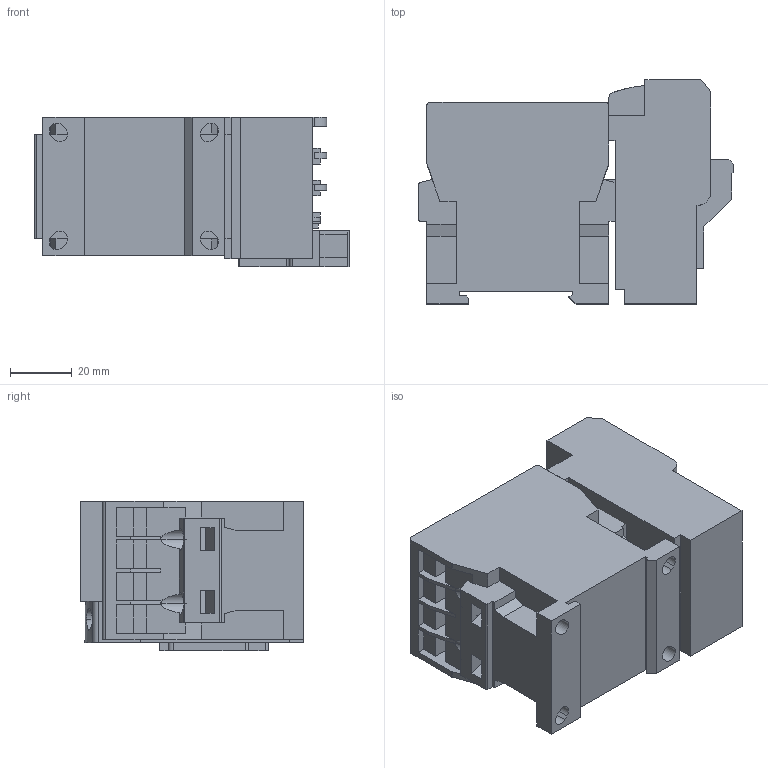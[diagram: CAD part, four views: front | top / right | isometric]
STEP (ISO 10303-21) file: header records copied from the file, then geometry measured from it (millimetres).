
FILE_DESCRIPTION (( 'STEP AP203' ), '1' );
FILE_NAME ('K3-10N + U12_K3.STEP', '2014-03-10T08:26:37', ( '' ), ( '' ), 'SwSTEP 2.0', 'SolidWorks 2014', '' );
FILE_SCHEMA (( 'CONFIG_CONTROL_DESIGN' ));
Length unit declared in the file: millimetre
Products named in the file (3): U12; K3-10N + U12_K3; K3-07_22N
Assembly tree (2 placements, depth 2):
  K3-10N + U12_K3
    K3-07_22N
    U12
Bounding box: 102.1 x 72.6 x 48.6 mm (x, y, z)
Volume: 233423.3 mm3; surface area: 44150 mm2
Topology: 2 solids, 2 shells, 406 faces, 1130 edges, 749 vertices
Faces by surface type: plane 331, cylinder 75
Entity records: 13352 total; most frequent: CARTESIAN_POINT 2521, ORIENTED_EDGE 2258, DIRECTION 2077, EDGE_CURVE 1129, LINE 939, VECTOR 939, VERTEX_POINT 749, AXIS2_PLACEMENT_3D 569
